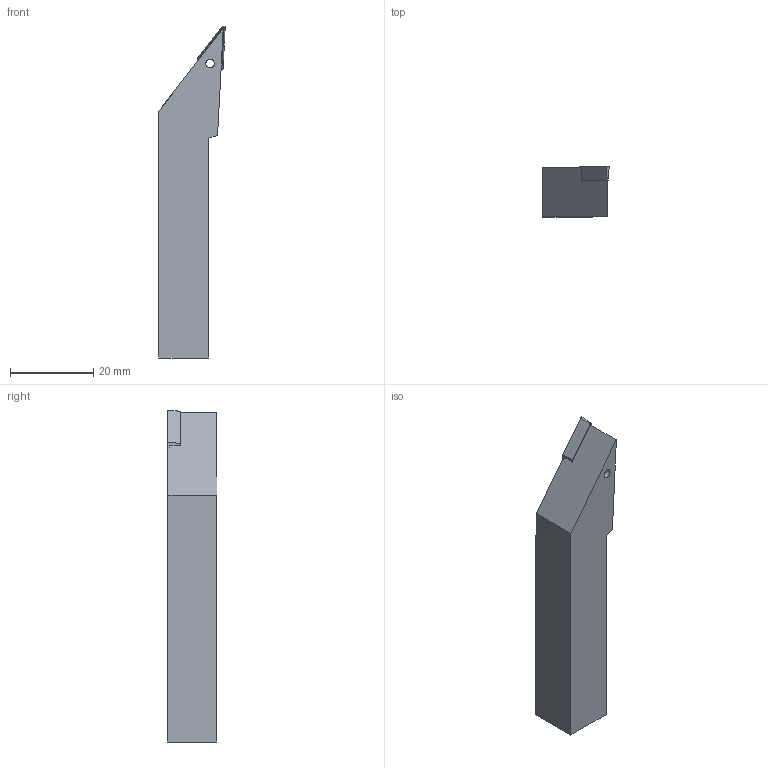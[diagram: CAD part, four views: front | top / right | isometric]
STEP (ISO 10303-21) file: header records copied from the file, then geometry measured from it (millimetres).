
FILE_DESCRIPTION(/* description */ (''),/* implementation_level */ '2;1');
FILE_NAME(/* name */ 'SVJBR1212-F11-HAAS.stp',/* time_stamp */ '2021-09-29T10:48:23+09:00',/* author */ (''),/* organization */ (''),/* preprocessor_version */ 'ST-DEVELOPER v16.7',/* originating_system */ 'SIEMENS PLM Software NX 1946',/* authorisation */ '');
FILE_SCHEMA (('AP203_CONFIGURATION_CONTROLLED_3D_DESIGN_OF_MECHANICAL_PARTS_AND_ASSEMBLIES_MIM_LF { 1 0 10303 403 2 1 2}'));
Length unit declared in the file: millimetre
Products named in the file (1): user51A0C9E0698c
Bounding box: 16 x 12 x 80 mm (x, y, z)
Volume: 10357.1 mm3; surface area: 4197.7 mm2
Topology: 2 solids, 2 shells, 33 faces, 85 edges, 56 vertices
Faces by surface type: plane 27, cylinder 3, cone 3
Full cylindrical faces by diameter (mm): 2.05 x1, 4 x1
Entity records: 1079 total; most frequent: CARTESIAN_POINT 172, ORIENTED_EDGE 164, DIRECTION 161, EDGE_CURVE 82, LINE 71, VECTOR 71, VERTEX_POINT 56, AXIS2_PLACEMENT_3D 45
